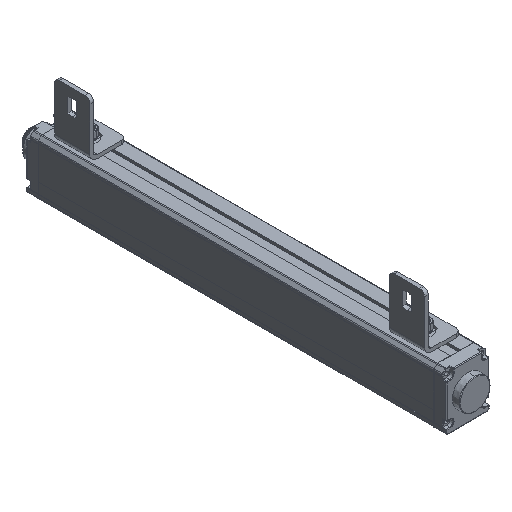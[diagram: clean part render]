
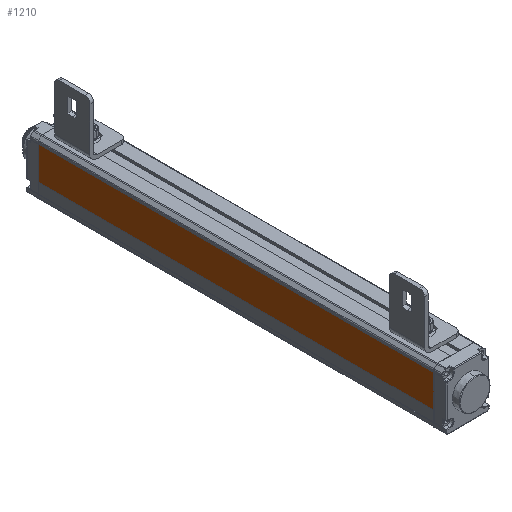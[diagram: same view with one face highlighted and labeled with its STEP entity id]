
A CAD part, isometric view. The second image highlights one B-rep face of the part: STEP entity #1210.
In plain terms, the highlighted planar face has unit normal (-1, 0, 0).
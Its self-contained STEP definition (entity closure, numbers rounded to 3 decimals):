
#66=DIRECTION('',(0.,0.,1.));
#67=VECTOR('',#66,27.045);
#68=CARTESIAN_POINT('',(-17.695,-162.5,-25.934));
#69=LINE('',#68,#67);
#362=DIRECTION('',(0.,0.,1.));
#363=VECTOR('',#362,27.045);
#364=CARTESIAN_POINT('',(-17.695,162.5,-25.934));
#365=LINE('',#364,#363);
#470=DIRECTION('',(0.,1.,0.));
#471=VECTOR('',#470,325.);
#472=CARTESIAN_POINT('',(-17.695,-162.5,-25.934));
#473=LINE('',#472,#471);
#474=DIRECTION('',(0.,1.,0.));
#475=VECTOR('',#474,325.);
#476=CARTESIAN_POINT('',(-17.695,-162.5,1.111));
#477=LINE('',#476,#475);
#644=CARTESIAN_POINT('',(-17.695,-162.5,-25.934));
#645=VERTEX_POINT('',#644);
#646=CARTESIAN_POINT('',(-17.695,-162.5,1.111));
#647=VERTEX_POINT('',#646);
#736=CARTESIAN_POINT('',(-17.695,162.5,-25.934));
#737=VERTEX_POINT('',#736);
#738=CARTESIAN_POINT('',(-17.695,162.5,1.111));
#739=VERTEX_POINT('',#738);
#1198=CARTESIAN_POINT('',(-17.695,-162.5,-25.934));
#1199=DIRECTION('',(-1.,0.,0.));
#1200=DIRECTION('',(0.,0.,1.));
#1201=AXIS2_PLACEMENT_3D('',#1198,#1199,#1200);
#1202=PLANE('',#1201);
#1203=ORIENTED_EDGE('',*,*,#829,.F.);
#1204=ORIENTED_EDGE('',*,*,#1193,.T.);
#1205=ORIENTED_EDGE('',*,*,#1000,.T.);
#1207=ORIENTED_EDGE('',*,*,#1206,.F.);
#1208=EDGE_LOOP('',(#1203,#1204,#1205,#1207));
#1209=FACE_OUTER_BOUND('',#1208,.F.);
#1210=ADVANCED_FACE('',(#1209),#1202,.T.);
#829=EDGE_CURVE('',#645,#647,#69,.T.);
#1000=EDGE_CURVE('',#737,#739,#365,.T.);
#1193=EDGE_CURVE('',#645,#737,#473,.T.);
#1206=EDGE_CURVE('',#647,#739,#477,.T.);
